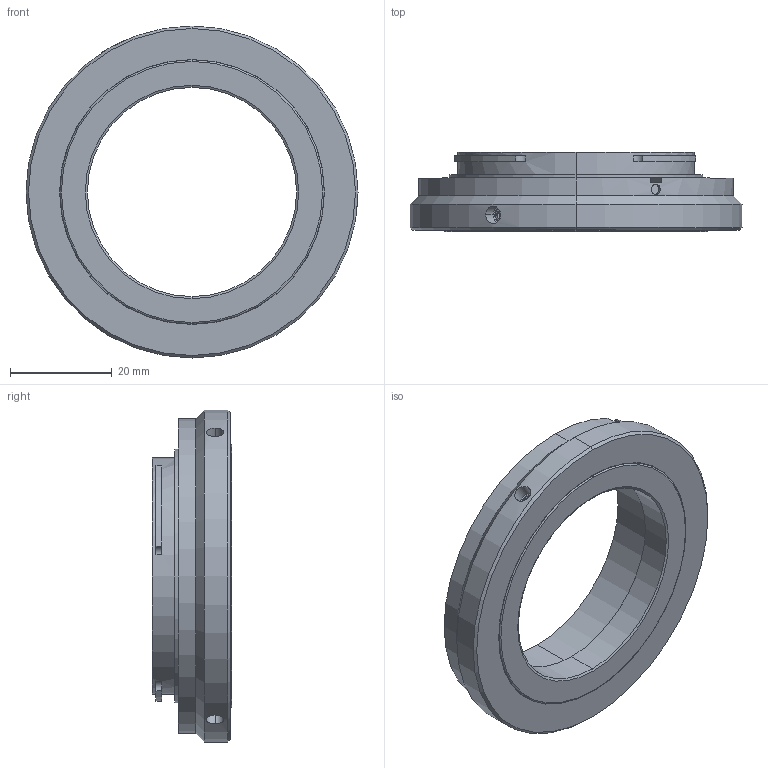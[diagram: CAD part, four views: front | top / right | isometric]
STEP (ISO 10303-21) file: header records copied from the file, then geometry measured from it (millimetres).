
FILE_DESCRIPTION (( 'STEP AP203' ), '1' );
FILE_NAME ('25-60-28-000 OUTLINE.STEP', '2013-01-14T20:42:06', ( '' ), ( '' ), 'SwSTEP 2.0', 'SolidWorks 2011', '' );
FILE_SCHEMA (( 'CONFIG_CONTROL_DESIGN' ));
Length unit declared in the file: millimetre
Products named in the file (1): 25-60-28-000 OUTLINE
Bounding box: 65.34 x 15.55 x 65.34 mm (x, y, z)
Volume: 18432 mm3; surface area: 12461.2 mm2
Topology: 5 solids, 5 shells, 192 faces, 411 edges, 235 vertices
Faces by surface type: plane 74, cone 55, cylinder 51, torus 12
Entity records: 5534 total; most frequent: CARTESIAN_POINT 1284, DIRECTION 933, ORIENTED_EDGE 810, EDGE_CURVE 405, AXIS2_PLACEMENT_3D 372, VERTEX_POINT 235, EDGE_LOOP 214, FACE_OUTER_BOUND 192
